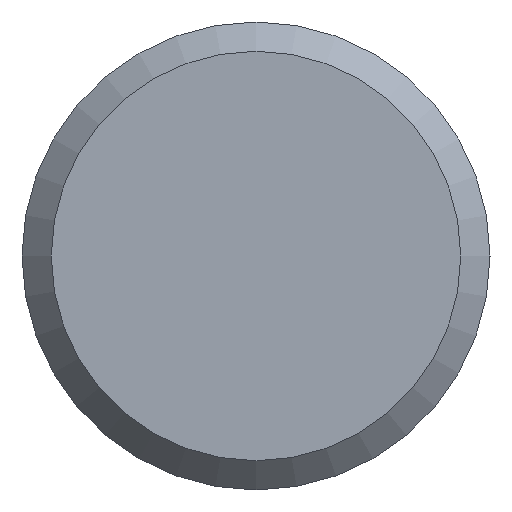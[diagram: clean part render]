
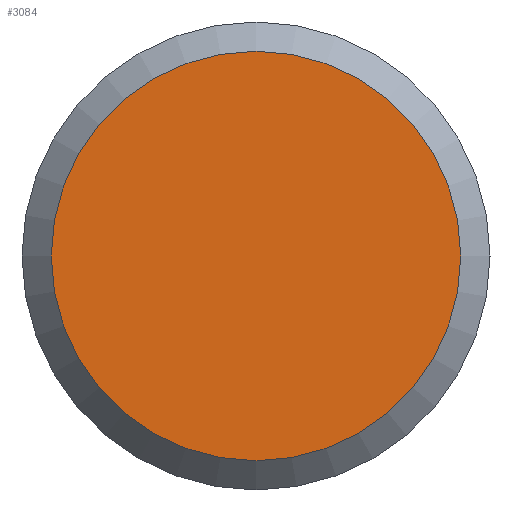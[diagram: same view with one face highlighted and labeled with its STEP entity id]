
A CAD part, left-side view. The second image highlights one B-rep face of the part: STEP entity #3084.
In plain terms, the highlighted planar face has unit normal (-1, 0, 0).
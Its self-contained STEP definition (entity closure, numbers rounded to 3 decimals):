
#1129=PLANE('',#2854);
#1171=ORIENTED_EDGE('',*,*,#1585,.F.);
#1377=CIRCLE('',#2853,3.5);
#1481=VERTEX_POINT('',#2537);
#1585=EDGE_CURVE('',#1481,#1481,#1377,.T.);
#1691=EDGE_LOOP('',(#1171));
#1899=FACE_BOUND('',#1691,.T.);
#2111=DIRECTION('',(1.,0.,0.));
#2112=DIRECTION('',(0.,-3.5,0.));
#2113=DIRECTION('',(-1.,0.,0.));
#2114=DIRECTION('',(0.,1.,0.));
#2537=CARTESIAN_POINT('',(37.952,165.04,0.));
#2538=CARTESIAN_POINT('',(37.952,168.54,0.));
#2539=CARTESIAN_POINT('',(37.952,168.54,0.));
#2853=AXIS2_PLACEMENT_3D('',#2538,#2111,#2112);
#2854=AXIS2_PLACEMENT_3D('',#2539,#2113,#2114);
#3084=ADVANCED_FACE('',(#1899),#1129,.T.);
